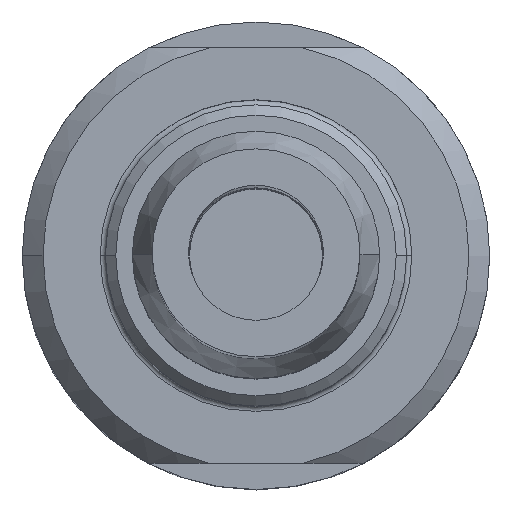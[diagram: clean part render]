
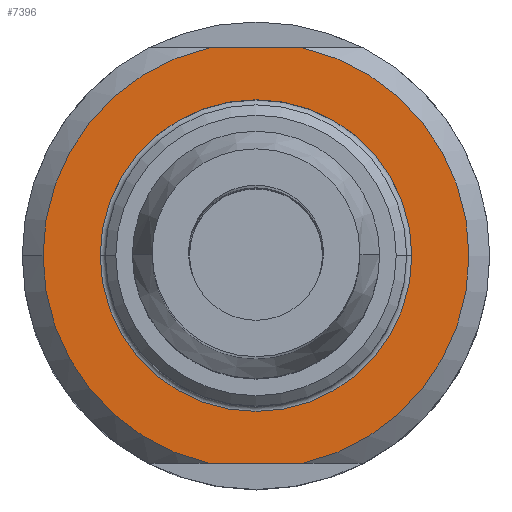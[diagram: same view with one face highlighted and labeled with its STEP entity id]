
A CAD part, top view. The second image highlights one B-rep face of the part: STEP entity #7396.
In plain terms, the highlighted planar face has unit normal (0, 0, 1).
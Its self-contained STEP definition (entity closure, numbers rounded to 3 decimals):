
#21 = CARTESIAN_POINT ( 'NONE',  ( 2.25, -10., 22.05 ) ) ;
#232 = ORIENTED_EDGE ( 'NONE', *, *, #13414, .F. ) ;
#236 = DIRECTION ( 'NONE',  ( 1., 0., 0. ) ) ;
#561 = DIRECTION ( 'NONE',  ( -1., 0., 0. ) ) ;
#635 = CARTESIAN_POINT ( 'NONE',  ( -23.067, 10., 22.05 ) ) ;
#773 = EDGE_CURVE ( 'NONE', #11839, #9959, #1299, .T. ) ;
#1299 = LINE ( 'NONE', #7828, #13992 ) ;
#1305 = AXIS2_PLACEMENT_3D ( 'NONE', #5095, #9459, #13811 ) ;
#1863 = AXIS2_PLACEMENT_3D ( 'NONE', #3360, #4367, #11972 ) ;
#2009 = VECTOR ( 'NONE', #3857, 1000. ) ;
#2181 = CIRCLE ( 'NONE', #14071, 10.25 ) ;
#2628 = FACE_OUTER_BOUND ( 'NONE', #13439, .T. ) ;
#2671 = CARTESIAN_POINT ( 'NONE',  ( -7.5, 0., 22.05 ) ) ;
#2782 = ORIENTED_EDGE ( 'NONE', *, *, #13109, .T. ) ;
#2787 = DIRECTION ( 'NONE',  ( 0., 0., -1. ) ) ;
#3139 = DIRECTION ( 'NONE',  ( 0., 0., -1. ) ) ;
#3286 = CARTESIAN_POINT ( 'NONE',  ( 0., 0., 22.05 ) ) ;
#3360 = CARTESIAN_POINT ( 'NONE',  ( 0., 0., 22.05 ) ) ;
#3581 = EDGE_CURVE ( 'NONE', #11839, #4349, #2181, .T. ) ;
#3729 = CARTESIAN_POINT ( 'NONE',  ( -2.25, -10., 22.05 ) ) ;
#3784 = VERTEX_POINT ( 'NONE', #13216 ) ;
#3857 = DIRECTION ( 'NONE',  ( -1., 0., 0. ) ) ;
#4078 = CARTESIAN_POINT ( 'NONE',  ( -2.25, 10., 22.05 ) ) ;
#4190 = ORIENTED_EDGE ( 'NONE', *, *, #773, .T. ) ;
#4349 = VERTEX_POINT ( 'NONE', #5128 ) ;
#4367 = DIRECTION ( 'NONE',  ( 0., 0., -1. ) ) ;
#4553 = VERTEX_POINT ( 'NONE', #4078 ) ;
#4659 = VERTEX_POINT ( 'NONE', #2671 ) ;
#5095 = CARTESIAN_POINT ( 'NONE',  ( 0., 0., 22.05 ) ) ;
#5128 = CARTESIAN_POINT ( 'NONE',  ( -10.25, 0., 22.05 ) ) ;
#5648 = EDGE_CURVE ( 'NONE', #3784, #4553, #10453, .T. ) ;
#5824 = DIRECTION ( 'NONE',  ( 0., 0., -1. ) ) ;
#5988 = AXIS2_PLACEMENT_3D ( 'NONE', #3286, #3139, #8802 ) ;
#6125 = AXIS2_PLACEMENT_3D ( 'NONE', #11278, #5824, #10188 ) ;
#6390 = ORIENTED_EDGE ( 'NONE', *, *, #5648, .T. ) ;
#6399 = VERTEX_POINT ( 'NONE', #7099 ) ;
#6445 = AXIS2_PLACEMENT_3D ( 'NONE', #7923, #11094, #6787 ) ;
#6578 = CIRCLE ( 'NONE', #6125, 10.25 ) ;
#6674 = CIRCLE ( 'NONE', #1863, 7.5 ) ;
#6787 = DIRECTION ( 'NONE',  ( 1., 0., 0. ) ) ;
#6991 = PLANE ( 'NONE',  #6445 ) ;
#7099 = CARTESIAN_POINT ( 'NONE',  ( 7.5, 0., 22.05 ) ) ;
#7396 = ADVANCED_FACE ( 'NONE', ( #12435, #2628 ), #6991, .T. ) ;
#7667 = EDGE_LOOP ( 'NONE', ( #11605, #2782 ) ) ;
#7828 = CARTESIAN_POINT ( 'NONE',  ( -23.067, -10., 22.05 ) ) ;
#7923 = CARTESIAN_POINT ( 'NONE',  ( 0., 10.25, 22.05 ) ) ;
#8242 = EDGE_CURVE ( 'NONE', #4349, #4553, #6578, .T. ) ;
#8461 = EDGE_CURVE ( 'NONE', #4659, #6399, #12986, .T. ) ;
#8782 = ORIENTED_EDGE ( 'NONE', *, *, #3581, .F. ) ;
#8802 = DIRECTION ( 'NONE',  ( -1., 0., 0. ) ) ;
#9459 = DIRECTION ( 'NONE',  ( 0., 0., -1. ) ) ;
#9959 = VERTEX_POINT ( 'NONE', #21 ) ;
#10188 = DIRECTION ( 'NONE',  ( -1., 0., 0. ) ) ;
#10453 = LINE ( 'NONE', #635, #2009 ) ;
#11094 = DIRECTION ( 'NONE',  ( 0., 0., 1. ) ) ;
#11278 = CARTESIAN_POINT ( 'NONE',  ( 0., 0., 22.05 ) ) ;
#11605 = ORIENTED_EDGE ( 'NONE', *, *, #8461, .T. ) ;
#11677 = ORIENTED_EDGE ( 'NONE', *, *, #8242, .F. ) ;
#11839 = VERTEX_POINT ( 'NONE', #3729 ) ;
#11932 = CIRCLE ( 'NONE', #5988, 10.25 ) ;
#11972 = DIRECTION ( 'NONE',  ( -1., 0., 0. ) ) ;
#12435 = FACE_BOUND ( 'NONE', #7667, .T. ) ;
#12986 = CIRCLE ( 'NONE', #1305, 7.5 ) ;
#13109 = EDGE_CURVE ( 'NONE', #6399, #4659, #6674, .T. ) ;
#13216 = CARTESIAN_POINT ( 'NONE',  ( 2.25, 10., 22.05 ) ) ;
#13414 = EDGE_CURVE ( 'NONE', #3784, #9959, #11932, .T. ) ;
#13439 = EDGE_LOOP ( 'NONE', ( #8782, #4190, #232, #6390, #11677 ) ) ;
#13579 = CARTESIAN_POINT ( 'NONE',  ( 0., 0., 22.05 ) ) ;
#13811 = DIRECTION ( 'NONE',  ( -1., 0., 0. ) ) ;
#13992 = VECTOR ( 'NONE', #236, 1000. ) ;
#14071 = AXIS2_PLACEMENT_3D ( 'NONE', #13579, #2787, #561 ) ;
